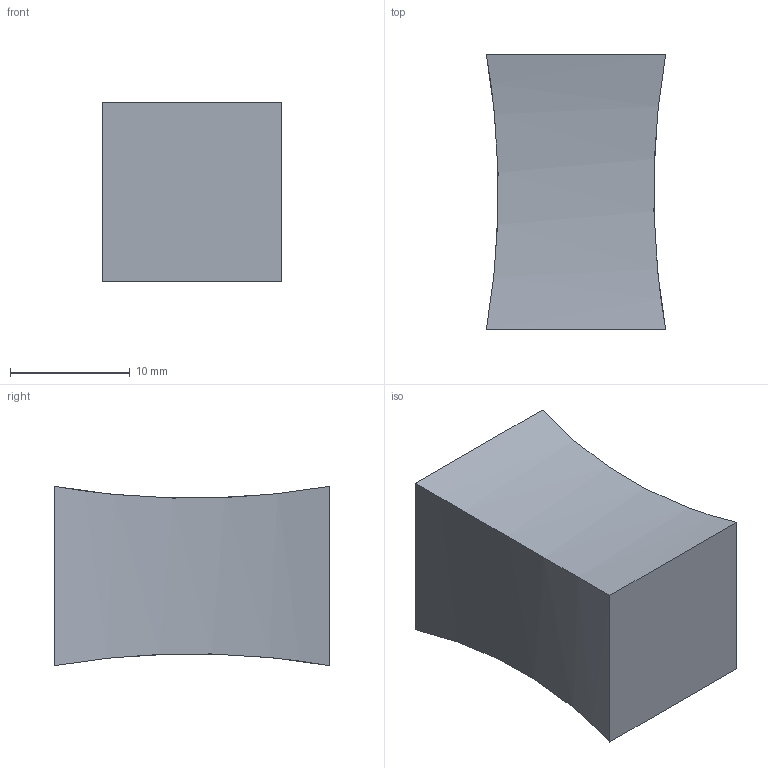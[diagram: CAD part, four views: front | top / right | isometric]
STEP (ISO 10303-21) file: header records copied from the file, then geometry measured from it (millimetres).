
FILE_DESCRIPTION( ( '' ), '1' );
FILE_NAME( 'C:/Documents and Settings/Nikhil/Desktop/Nik/Done/9071080.stp', '2013-10-23T11:09:52', ( '' ), ( '' ), ' ', ' ', ' ' );
FILE_SCHEMA( ( 'automotive_design' ) );
Length unit declared in the file: millimetre
Products named in the file (1): 1
Bounding box: 15 x 23 x 15 mm (x, y, z)
Volume: 4240 mm3; surface area: 1776.6 mm2
Topology: 1 solids, 1 shells, 9 faces, 18 edges, 12 vertices
Faces by surface type: cylinder 6, plane 3
Entity records: 486 total; most frequent: DIRECTION 46, STYLED_ITEM 40, PRESENTATION_STYLE_ASSIGNMENT 40, CARTESIAN_POINT 40, COLOUR_RGB 40, ORIENTED_EDGE 36, EDGE_CURVE 18, AXIS2_PLACEMENT_3D 18
